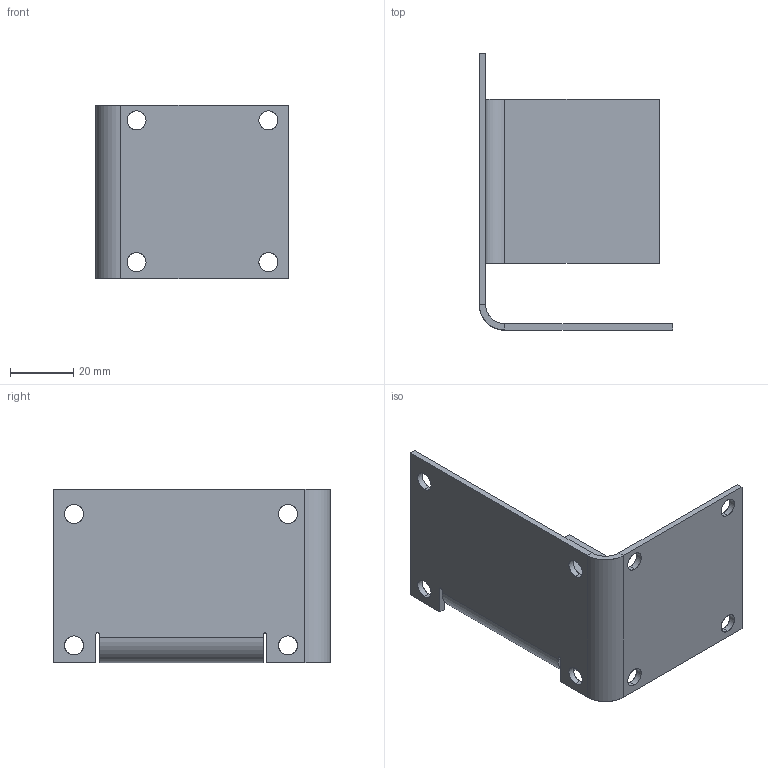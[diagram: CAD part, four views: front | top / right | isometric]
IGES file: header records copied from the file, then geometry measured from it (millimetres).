
Start section: SolidWorks IGES file using analytic representation for surfaces
Global section: file name: C:\Documents and Settings\Pc\Escritorio\Modelos 3D\Capítulo 1 (Estático)\PRACTICAS\P-2\p-2.IGS; native system: SolidWorks 2010; preprocessor: SolidWorks 2010; author: Pc; date: 100623.110549; units: millimetre
Bounding box: 61.15 x 87.56 x 55 mm (x, y, z)
Surface area: 22105.7 mm2 (no closed solid volume)
Topology: 0 solids, 0 shells, 48 faces, 804 edges, 804 vertices
Faces by surface type: revolution 24, bspline 24
